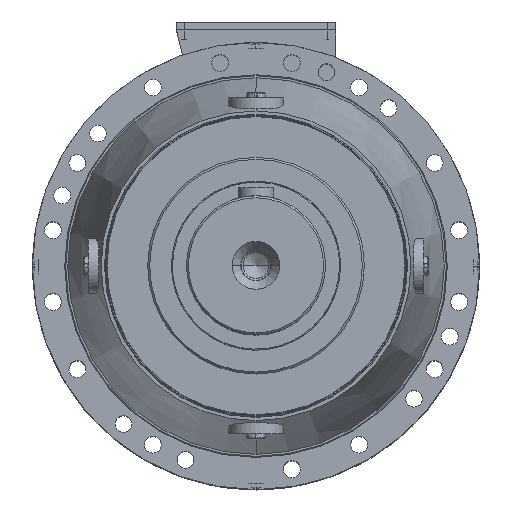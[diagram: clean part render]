
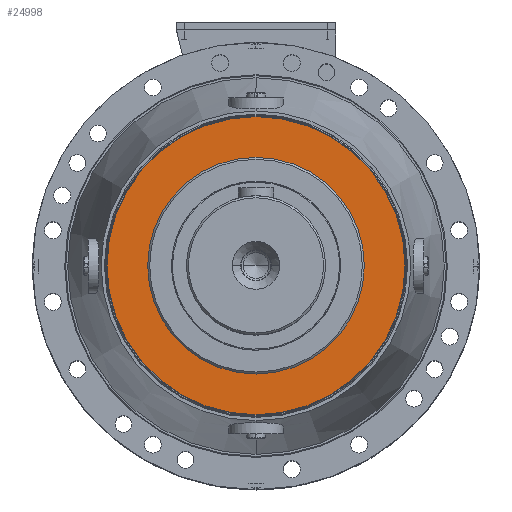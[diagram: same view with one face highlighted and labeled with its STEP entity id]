
A CAD part, top view. The second image highlights one B-rep face of the part: STEP entity #24998.
In plain terms, the highlighted planar face has unit normal (0, 0, 1).
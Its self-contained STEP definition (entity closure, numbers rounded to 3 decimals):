
#9983 = VERTEX_POINT ( 'NONE', #38770 ) ;
#9989 = VERTEX_POINT ( 'NONE', #38744 ) ;
#9996 = VERTEX_POINT ( 'NONE', #38837 ) ;
#9997 = VERTEX_POINT ( 'NONE', #38776 ) ;
#12399 = ORIENTED_EDGE ( 'NONE', *, *, #30998, .F. ) ;
#12464 = ORIENTED_EDGE ( 'NONE', *, *, #31001, .F. ) ;
#12560 = ORIENTED_EDGE ( 'NONE', *, *, #30850, .F. ) ;
#12622 = ORIENTED_EDGE ( 'NONE', *, *, #31168, .F. ) ;
#24998 = ADVANCED_FACE ( 'NONE', ( #155729, #155673 ), #159823, .F. ) ;
#30850 = EDGE_CURVE ( 'NONE', #9989, #9983, #157927, .T. ) ;
#30998 = EDGE_CURVE ( 'NONE', #9983, #9989, #154595, .T. ) ;
#31001 = EDGE_CURVE ( 'NONE', #9997, #9996, #154705, .T. ) ;
#31168 = EDGE_CURVE ( 'NONE', #9996, #9997, #56157, .T. ) ;
#38744 = CARTESIAN_POINT ( 'NONE',  ( 0., 150., 220. ) ) ;
#38770 = CARTESIAN_POINT ( 'NONE',  ( 0., -150., 220. ) ) ;
#38776 = CARTESIAN_POINT ( 'NONE',  ( 0., 109., 220. ) ) ;
#38837 = CARTESIAN_POINT ( 'NONE',  ( 0., -109., 220. ) ) ;
#42259 = DIRECTION ( 'NONE',  ( 0., 1., 0. ) ) ;
#42275 = DIRECTION ( 'NONE',  ( 0., 0., -1. ) ) ;
#42288 = CARTESIAN_POINT ( 'NONE',  ( 0., 0., 220. ) ) ;
#45843 = DIRECTION ( 'NONE',  ( 0., 1., 0. ) ) ;
#45848 = DIRECTION ( 'NONE',  ( 0., 0., 1. ) ) ;
#45851 = CARTESIAN_POINT ( 'NONE',  ( 0., 0., 220. ) ) ;
#45859 = DIRECTION ( 'NONE',  ( 0., 1., 0. ) ) ;
#45861 = CARTESIAN_POINT ( 'NONE',  ( 0., 0., 220. ) ) ;
#45865 = DIRECTION ( 'NONE',  ( 0., 0., -1. ) ) ;
#46974 = DIRECTION ( 'NONE',  ( 0., 0., 1. ) ) ;
#47046 = DIRECTION ( 'NONE',  ( 0., 1., 0. ) ) ;
#47050 = CARTESIAN_POINT ( 'NONE',  ( 0., 0., 220. ) ) ;
#56157 = CIRCLE ( 'NONE', #134732, 109. ) ;
#133519 = AXIS2_PLACEMENT_3D ( 'NONE', #159817, #159807, #159832 ) ;
#134391 = AXIS2_PLACEMENT_3D ( 'NONE', #45851, #45865, #45843 ) ;
#134441 = AXIS2_PLACEMENT_3D ( 'NONE', #42288, #42275, #42259 ) ;
#134488 = AXIS2_PLACEMENT_3D ( 'NONE', #45861, #45848, #45859 ) ;
#134732 = AXIS2_PLACEMENT_3D ( 'NONE', #47050, #46974, #47046 ) ;
#146669 = EDGE_LOOP ( 'NONE', ( #12560, #12399 ) ) ;
#146706 = EDGE_LOOP ( 'NONE', ( #12464, #12622 ) ) ;
#154595 = CIRCLE ( 'NONE', #134391, 150. ) ;
#154705 = CIRCLE ( 'NONE', #134488, 109. ) ;
#155673 = FACE_OUTER_BOUND ( 'NONE', #146669, .T. ) ;
#155729 = FACE_BOUND ( 'NONE', #146706, .T. ) ;
#157927 = CIRCLE ( 'NONE', #134441, 150. ) ;
#159807 = DIRECTION ( 'NONE',  ( 0., 0., -1. ) ) ;
#159817 = CARTESIAN_POINT ( 'NONE',  ( 0., 150., 220. ) ) ;
#159823 = PLANE ( 'NONE',  #133519 ) ;
#159832 = DIRECTION ( 'NONE',  ( 0., 1., 0. ) ) ;
